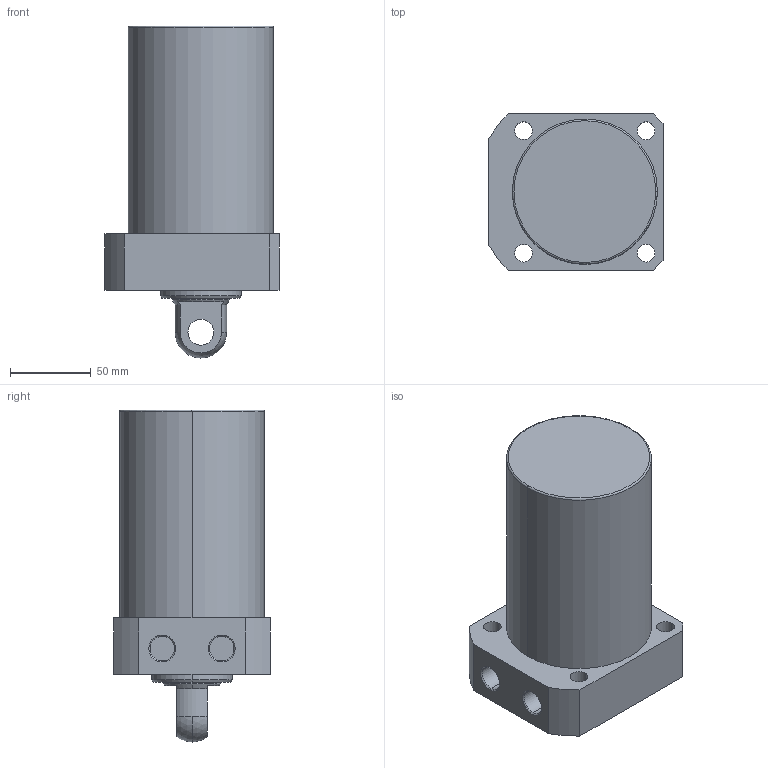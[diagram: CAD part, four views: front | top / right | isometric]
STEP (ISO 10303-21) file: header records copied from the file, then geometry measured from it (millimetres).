
FILE_DESCRIPTION (( 'STEP AP203' ), '1' );
FILE_NAME ('CLLR-090CP-085.STEP', '2019-12-18T06:51:51', ( '' ), ( '' ), 'SwSTEP 2.0', 'SolidWorks 2015', '' );
FILE_SCHEMA (( 'CONFIG_CONTROL_DESIGN' ));
Length unit declared in the file: millimetre
Products named in the file (1): CLLR-090CP-085
Bounding box: 108 x 97 x 206 mm (x, y, z)
Volume: 1184832.9 mm3; surface area: 80539.6 mm2
Topology: 1 solids, 1 shells, 59 faces, 139 edges, 89 vertices
Faces by surface type: cylinder 29, plane 18, cone 8, sphere 2, torus 2
Entity records: 1822 total; most frequent: DIRECTION 331, CARTESIAN_POINT 300, ORIENTED_EDGE 278, EDGE_CURVE 139, AXIS2_PLACEMENT_3D 136, VERTEX_POINT 89, EDGE_LOOP 76, CIRCLE 76
